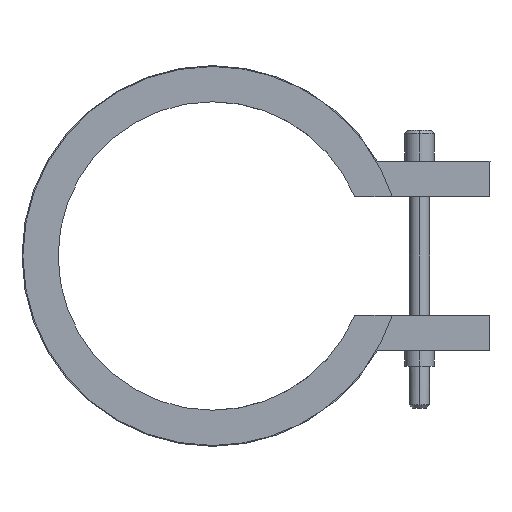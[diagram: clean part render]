
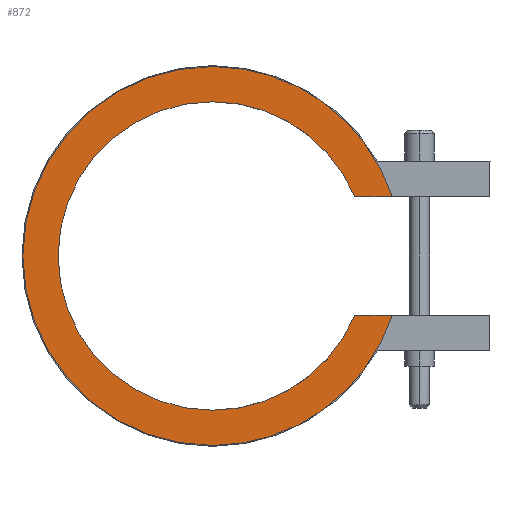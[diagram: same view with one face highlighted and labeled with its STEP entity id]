
A CAD part, left-side view. The second image highlights one B-rep face of the part: STEP entity #872.
In plain terms, the highlighted planar face has unit normal (-1, 0, 0).
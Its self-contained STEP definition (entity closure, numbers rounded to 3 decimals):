
#410=CARTESIAN_POINT('Vertex',(-17.5,-16.146,-6.75)) ;
#413=CARTESIAN_POINT('Line Origine',(-17.5,-18.279,-6.75)) ;
#417=CARTESIAN_POINT('Vertex',(-17.5,-20.413,-6.75)) ;
#463=CARTESIAN_POINT('Vertex',(-17.5,0.,-21.5)) ;
#466=CARTESIAN_POINT('Axis2P3D Location',(-17.5,0.,0.)) ;
#487=CARTESIAN_POINT('Vertex',(-17.5,0.,21.5)) ;
#490=CARTESIAN_POINT('Axis2P3D Location',(-17.5,0.,0.)) ;
#502=CARTESIAN_POINT('Axis2P3D Location',(-17.5,0.,0.)) ;
#506=CARTESIAN_POINT('Vertex',(-17.5,-20.413,6.75)) ;
#526=CARTESIAN_POINT('Line Origine',(-17.5,-18.279,6.75)) ;
#530=CARTESIAN_POINT('Vertex',(-17.5,-16.146,6.75)) ;
#818=CARTESIAN_POINT('Axis2P3D Location',(-17.5,0.,0.)) ;
#822=CARTESIAN_POINT('Vertex',(-17.5,0.,-17.5)) ;
#845=CARTESIAN_POINT('Axis2P3D Location',(-17.5,0.,0.)) ;
#850=CARTESIAN_POINT('Axis2P3D Location',(-17.5,0.,0.)) ;
#854=CARTESIAN_POINT('Vertex',(-17.5,0.,17.5)) ;
#857=CARTESIAN_POINT('Axis2P3D Location',(-17.5,0.,0.)) ;
#414=DIRECTION('Vector Direction',(0.,1.,0.)) ;
#467=DIRECTION('Axis2P3D Direction',(1.,0.,-0.)) ;
#491=DIRECTION('Axis2P3D Direction',(1.,0.,-0.)) ;
#503=DIRECTION('Axis2P3D Direction',(1.,0.,-0.)) ;
#527=DIRECTION('Vector Direction',(0.,-1.,0.)) ;
#819=DIRECTION('Axis2P3D Direction',(1.,0.,-0.)) ;
#846=DIRECTION('Axis2P3D Direction',(1.,0.,0.)) ;
#847=DIRECTION('Axis2P3D XDirection',(0.,0.,-1.)) ;
#851=DIRECTION('Axis2P3D Direction',(1.,0.,0.)) ;
#858=DIRECTION('Axis2P3D Direction',(1.,0.,0.)) ;
#468=AXIS2_PLACEMENT_3D('Circle Axis2P3D',#466,#467,$) ;
#492=AXIS2_PLACEMENT_3D('Circle Axis2P3D',#490,#491,$) ;
#504=AXIS2_PLACEMENT_3D('Circle Axis2P3D',#502,#503,$) ;
#820=AXIS2_PLACEMENT_3D('Circle Axis2P3D',#818,#819,$) ;
#848=AXIS2_PLACEMENT_3D('Plane Axis2P3D',#845,#846,#847) ;
#852=AXIS2_PLACEMENT_3D('Circle Axis2P3D',#850,#851,$) ;
#859=AXIS2_PLACEMENT_3D('Circle Axis2P3D',#857,#858,$) ;
#863=ORIENTED_EDGE('',*,*,#419,.T.) ;
#864=ORIENTED_EDGE('',*,*,#824,.T.) ;
#865=ORIENTED_EDGE('',*,*,#856,.T.) ;
#866=ORIENTED_EDGE('',*,*,#861,.T.) ;
#867=ORIENTED_EDGE('',*,*,#532,.T.) ;
#868=ORIENTED_EDGE('',*,*,#508,.F.) ;
#869=ORIENTED_EDGE('',*,*,#494,.F.) ;
#870=ORIENTED_EDGE('',*,*,#470,.F.) ;
#415=VECTOR('Line Direction',#414,1.) ;
#528=VECTOR('Line Direction',#527,1.) ;
#872=ADVANCED_FACE('14035035',(#871),#849,.F.) ;
#469=CIRCLE('generated circle',#468,21.5) ;
#493=CIRCLE('generated circle',#492,21.5) ;
#505=CIRCLE('generated circle',#504,21.5) ;
#821=CIRCLE('generated circle',#820,17.5) ;
#853=CIRCLE('generated circle',#852,17.5) ;
#860=CIRCLE('generated circle',#859,17.5) ;
#419=EDGE_CURVE('',#418,#411,#416,.T.) ;
#470=EDGE_CURVE('',#418,#464,#469,.T.) ;
#494=EDGE_CURVE('',#464,#488,#493,.T.) ;
#508=EDGE_CURVE('',#488,#507,#505,.T.) ;
#532=EDGE_CURVE('',#531,#507,#529,.T.) ;
#824=EDGE_CURVE('',#411,#823,#821,.T.) ;
#856=EDGE_CURVE('',#823,#855,#853,.T.) ;
#861=EDGE_CURVE('',#855,#531,#860,.T.) ;
#862=EDGE_LOOP('',(#863,#864,#865,#866,#867,#868,#869,#870)) ;
#871=FACE_OUTER_BOUND('',#862,.T.) ;
#416=LINE('Line',#413,#415) ;
#529=LINE('Line',#526,#528) ;
#849=PLANE('Plane',#848) ;
#411=VERTEX_POINT('',#410) ;
#418=VERTEX_POINT('',#417) ;
#464=VERTEX_POINT('',#463) ;
#488=VERTEX_POINT('',#487) ;
#507=VERTEX_POINT('',#506) ;
#531=VERTEX_POINT('',#530) ;
#823=VERTEX_POINT('',#822) ;
#855=VERTEX_POINT('',#854) ;
